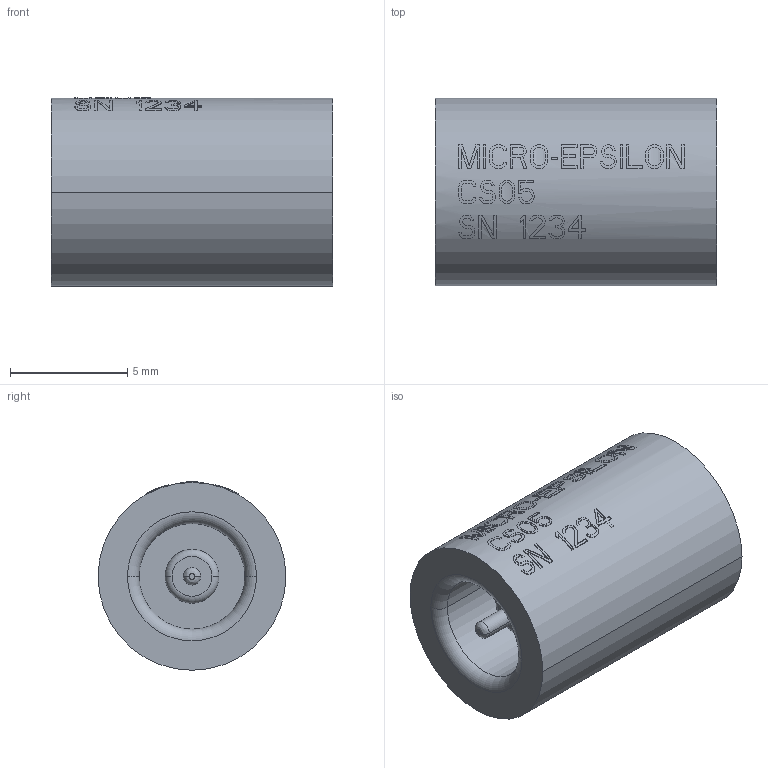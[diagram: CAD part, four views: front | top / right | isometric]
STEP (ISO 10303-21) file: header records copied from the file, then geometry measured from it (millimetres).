
FILE_DESCRIPTION((''),'2;1');
FILE_NAME('CS05','2009-07-29T',('11000065'),(''),'PRO/ENGINEER BY PARAMETRIC TECHNOLOGY CORPORATION, 2008490','PRO/ENGINEER BY PARAMETRIC TECHNOLOGY CORPORATION, 2008490','');
FILE_SCHEMA(('AUTOMOTIVE_DESIGN { 1 2 10303 214 0 1 1 1 }'));
Length unit declared in the file: millimetre
Products named in the file (1): CS05
Bounding box: 12 x 8 x 8.03 mm (x, y, z)
Volume: 547.1 mm3; surface area: 476.8 mm2
Topology: 1 solids, 1 shells, 697 faces, 1967 edges, 1308 vertices
Faces by surface type: plane 642, cylinder 47, torus 4, cone 2, bspline 2
Entity records: 28577 total; most frequent: CARTESIAN_POINT 5766, ORIENTED_EDGE 3934, DIRECTION 2715, PRESENTATION_STYLE_ASSIGNMENT 1995, STYLED_ITEM 1970, CURVE_STYLE 1967, EDGE_CURVE 1967, VERTEX_POINT 1308
